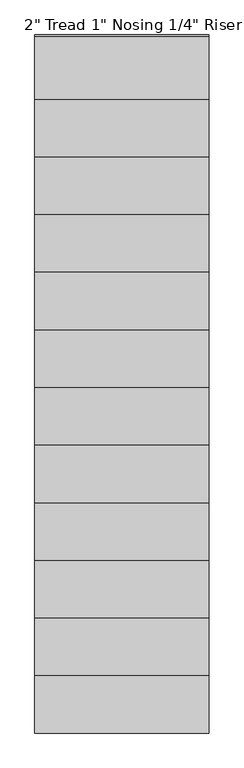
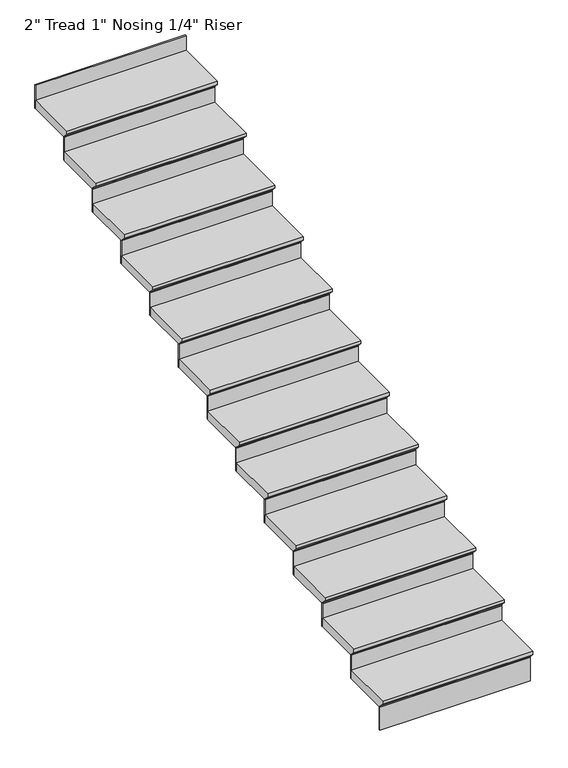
"""IFC4 building model written with IfcOpenShell, lengths in millimetres: stair flight geometry."""

from ifc_helpers import new_model, si_unit, frame, origin, place, context, project, spatial, polyline, outline, extrude, source, transform, mapped, element, save


def stair_flight_b4abb4c3(model_context):
    return source(origin(), model_context, "Body", "SweptSolid", [
        extrude(outline(polyline([(-5335.6545706, 1385.4545455), (-5030.8545706, 1385.4545455), (-5030.8545706, 1334.6545455), (-5310.2545706, 1334.6545455), (-5310.2545706, 1341.0045455), (-5335.6545706, 1366.4045455), (-5335.6545706, 1385.4545455)])), frame((-1871.5459224, 0.0, 0.0), z_axis=(1.0, 0.0, 0.0), x_axis=(0.0, 1.0, 0.0)), (0.0, 0.0, 1.0), 845.7549417),
        extrude(outline(polyline([(-1025.7909807, -5303.9045706), (-1025.7909807, -5310.2545706), (-1871.5459224, -5310.2545706), (-1871.5459224, -5303.9045706), (-1025.7909807, -5303.9045706)])), frame((0.0, 0.0, 1196.1090909), z_axis=(0.0, 0.0, 1.0), x_axis=(1.0, 0.0, 0.0)), (0.0, 0.0, 1.0), 138.5454545),
        extrude(outline(polyline([(-1025.7909807, -5024.5045706), (-1025.7909807, -5030.8545706), (-1871.5459224, -5030.8545706), (-1871.5459224, -5024.5045706), (-1025.7909807, -5024.5045706)])), frame((0.0, 0.0, 1334.6545455), z_axis=(0.0, 0.0, 1.0), x_axis=(1.0, 0.0, 0.0)), (0.0, 0.0, 1.0), 138.5454545),
        extrude(outline(polyline([(-5056.2545706, 1524.0), (-4751.4545706, 1524.0), (-4751.4545706, 1473.2), (-5030.8545706, 1473.2), (-5030.8545706, 1479.55), (-5056.2545706, 1504.95), (-5056.2545706, 1524.0)])), frame((-1871.5459224, 0.0, 0.0), z_axis=(1.0, 0.0, 0.0), x_axis=(0.0, 1.0, 0.0)), (0.0, 0.0, 1.0), 845.7549417),
        extrude(outline(polyline([(-1025.7909807, -4745.1045706), (-1025.7909807, -4751.4545706), (-1871.5459224, -4751.4545706), (-1871.5459224, -4745.1045706), (-1025.7909807, -4745.1045706)])), frame((0.0, 0.0, 1473.2), z_axis=(0.0, 0.0, 1.0), x_axis=(1.0, 0.0, 0.0)), (0.0, 0.0, 1.0), 138.5454545),
        extrude(outline(polyline([(-4776.8545706, 1662.5454545), (-4472.0545706, 1662.5454545), (-4472.0545706, 1611.7454545), (-4751.4545706, 1611.7454545), (-4751.4545706, 1618.0954545), (-4776.8545706, 1643.4954545), (-4776.8545706, 1662.5454545)])), frame((-1871.5459224, 0.0, 0.0), z_axis=(1.0, 0.0, 0.0), x_axis=(0.0, 1.0, 0.0)), (0.0, 0.0, 1.0), 845.7549417),
        extrude(outline(polyline([(-1025.7909807, -4465.7045706), (-1025.7909807, -4472.0545706), (-1871.5459224, -4472.0545706), (-1871.5459224, -4465.7045706), (-1025.7909807, -4465.7045706)])), frame((0.0, 0.0, 1611.7454545), z_axis=(0.0, 0.0, 1.0), x_axis=(1.0, 0.0, 0.0)), (0.0, 0.0, 1.0), 138.5454545),
        extrude(outline(polyline([(-4497.4545706, 1801.0909091), (-4192.6545706, 1801.0909091), (-4192.6545706, 1750.2909091), (-4472.0545706, 1750.2909091), (-4472.0545706, 1756.6409091), (-4497.4545706, 1782.0409091), (-4497.4545706, 1801.0909091)])), frame((-1871.5459224, 0.0, 0.0), z_axis=(1.0, 0.0, 0.0), x_axis=(0.0, 1.0, 0.0)), (0.0, 0.0, 1.0), 845.7549417),
        extrude(outline(polyline([(-1025.7909807, -4186.3045706), (-1025.7909807, -4192.6545706), (-1871.5459224, -4192.6545706), (-1871.5459224, -4186.3045706), (-1025.7909807, -4186.3045706)])), frame((0.0, 0.0, 1750.2909091), z_axis=(0.0, 0.0, 1.0), x_axis=(1.0, 0.0, 0.0)), (0.0, 0.0, 1.0), 138.5454545),
        extrude(outline(polyline([(-4218.0545706, 1939.6363636), (-3913.2545706, 1939.6363636), (-3913.2545706, 1888.8363636), (-4192.6545706, 1888.8363636), (-4192.6545706, 1895.1863636), (-4218.0545706, 1920.5863636), (-4218.0545706, 1939.6363636)])), frame((-1871.5459224, 0.0, 0.0), z_axis=(1.0, 0.0, 0.0), x_axis=(0.0, 1.0, 0.0)), (0.0, 0.0, 1.0), 845.7549417),
        extrude(outline(polyline([(-1025.7909807, -3906.9045706), (-1025.7909807, -3913.2545706), (-1871.5459224, -3913.2545706), (-1871.5459224, -3906.9045706), (-1025.7909807, -3906.9045706)])), frame((0.0, 0.0, 1888.8363636), z_axis=(0.0, 0.0, 1.0), x_axis=(1.0, 0.0, 0.0)), (0.0, 0.0, 1.0), 138.5454545),
        extrude(outline(polyline([(-3938.6545706, 2078.1818182), (-3633.8545706, 2078.1818182), (-3633.8545706, 2027.3818182), (-3913.2545706, 2027.3818182), (-3913.2545706, 2033.7318182), (-3938.6545706, 2059.1318182), (-3938.6545706, 2078.1818182)])), frame((-1871.5459224, 0.0, 0.0), z_axis=(1.0, 0.0, 0.0), x_axis=(0.0, 1.0, 0.0)), (0.0, 0.0, 1.0), 845.7549417),
        extrude(outline(polyline([(-1025.7909807, -3627.5045706), (-1025.7909807, -3633.8545706), (-1871.5459224, -3633.8545706), (-1871.5459224, -3627.5045706), (-1025.7909807, -3627.5045706)])), frame((0.0, 0.0, 2027.3818182), z_axis=(0.0, 0.0, 1.0), x_axis=(1.0, 0.0, 0.0)), (0.0, 0.0, 1.0), 138.5454545),
        extrude(outline(polyline([(-3659.2545706, 2216.7272727), (-3354.4545706, 2216.7272727), (-3354.4545706, 2165.9272727), (-3633.8545706, 2165.9272727), (-3633.8545706, 2172.2772727), (-3659.2545706, 2197.6772727), (-3659.2545706, 2216.7272727)])), frame((-1871.5459224, 0.0, 0.0), z_axis=(1.0, 0.0, 0.0), x_axis=(0.0, 1.0, 0.0)), (0.0, 0.0, 1.0), 845.7549417),
        extrude(outline(polyline([(-1025.7909807, -3348.1045706), (-1025.7909807, -3354.4545706), (-1871.5459224, -3354.4545706), (-1871.5459224, -3348.1045706), (-1025.7909807, -3348.1045706)])), frame((0.0, 0.0, 2165.9272727), z_axis=(0.0, 0.0, 1.0), x_axis=(1.0, 0.0, 0.0)), (0.0, 0.0, 1.0), 138.5454545),
        extrude(outline(polyline([(-3379.8545706, 2355.2727273), (-3075.0545706, 2355.2727273), (-3075.0545706, 2304.4727273), (-3354.4545706, 2304.4727273), (-3354.4545706, 2310.8227273), (-3379.8545706, 2336.2227273), (-3379.8545706, 2355.2727273)])), frame((-1871.5459224, 0.0, 0.0), z_axis=(1.0, 0.0, 0.0), x_axis=(0.0, 1.0, 0.0)), (0.0, 0.0, 1.0), 845.7549417),
        extrude(outline(polyline([(-1025.7909807, -3068.7045706), (-1025.7909807, -3075.0545706), (-1871.5459224, -3075.0545706), (-1871.5459224, -3068.7045706), (-1025.7909807, -3068.7045706)])), frame((0.0, 0.0, 2304.4727273), z_axis=(0.0, 0.0, 1.0), x_axis=(1.0, 0.0, 0.0)), (0.0, 0.0, 1.0), 138.5454545),
        extrude(outline(polyline([(-3100.4545706, 2493.8181818), (-2795.6545706, 2493.8181818), (-2795.6545706, 2443.0181818), (-3075.0545706, 2443.0181818), (-3075.0545706, 2449.3681818), (-3100.4545706, 2474.7681818), (-3100.4545706, 2493.8181818)])), frame((-1871.5459224, 0.0, 0.0), z_axis=(1.0, 0.0, 0.0), x_axis=(0.0, 1.0, 0.0)), (0.0, 0.0, 1.0), 845.7549417),
        extrude(outline(polyline([(-1025.7909807, -2789.3045706), (-1025.7909807, -2795.6545706), (-1871.5459224, -2795.6545706), (-1871.5459224, -2789.3045706), (-1025.7909807, -2789.3045706)])), frame((0.0, 0.0, 2443.0181818), z_axis=(0.0, 0.0, 1.0), x_axis=(1.0, 0.0, 0.0)), (0.0, 0.0, 1.0), 138.5454545),
        extrude(outline(polyline([(-2821.0545706, 2632.3636364), (-2516.2545706, 2632.3636364), (-2516.2545706, 2581.5636364), (-2795.6545706, 2581.5636364), (-2795.6545706, 2587.9136364), (-2821.0545706, 2613.3136364), (-2821.0545706, 2632.3636364)])), frame((-1871.5459224, 0.0, 0.0), z_axis=(1.0, 0.0, 0.0), x_axis=(0.0, 1.0, 0.0)), (0.0, 0.0, 1.0), 845.7549417),
        extrude(outline(polyline([(-1025.7909807, -2509.9045706), (-1025.7909807, -2516.2545706), (-1871.5459224, -2516.2545706), (-1871.5459224, -2509.9045706), (-1025.7909807, -2509.9045706)])), frame((0.0, 0.0, 2581.5636364), z_axis=(0.0, 0.0, 1.0), x_axis=(1.0, 0.0, 0.0)), (0.0, 0.0, 1.0), 138.5454545),
        extrude(outline(polyline([(-2541.6545706, 2770.9090909), (-2236.8545706, 2770.9090909), (-2236.8545706, 2720.1090909), (-2516.2545706, 2720.1090909), (-2516.2545706, 2726.4590909), (-2541.6545706, 2751.8590909), (-2541.6545706, 2770.9090909)])), frame((-1871.5459224, 0.0, 0.0), z_axis=(1.0, 0.0, 0.0), x_axis=(0.0, 1.0, 0.0)), (0.0, 0.0, 1.0), 845.7549417),
        extrude(outline(polyline([(-1025.7909807, -2230.5045706), (-1025.7909807, -2236.8545706), (-1871.5459224, -2236.8545706), (-1871.5459224, -2230.5045706), (-1025.7909807, -2230.5045706)])), frame((0.0, 0.0, 2720.1090909), z_axis=(0.0, 0.0, 1.0), x_axis=(1.0, 0.0, 0.0)), (0.0, 0.0, 1.0), 138.5454545),
        extrude(outline(polyline([(-2262.2545706, 2909.4545455), (-1957.4545706, 2909.4545455), (-1957.4545706, 2858.6545455), (-2236.8545706, 2858.6545455), (-2236.8545706, 2865.0045455), (-2262.2545706, 2890.4045455), (-2262.2545706, 2909.4545455)])), frame((-1871.5459224, 0.0, 0.0), z_axis=(1.0, 0.0, 0.0), x_axis=(0.0, 1.0, 0.0)), (0.0, 0.0, 1.0), 845.7549417),
        extrude(outline(polyline([(-1025.7909807, -1951.1045706), (-1025.7909807, -1957.4545706), (-1871.5459224, -1957.4545706), (-1871.5459224, -1951.1045706), (-1025.7909807, -1951.1045706)])), frame((0.0, 0.0, 2858.6545455), z_axis=(0.0, 0.0, 1.0), x_axis=(1.0, 0.0, 0.0)), (0.0, 0.0, 1.0), 138.5454545),
    ])


if __name__ == "__main__":
    model = new_model("IFC4")
    model_context = context("Model", 3, world=origin())
    ifc_project = project(units=[si_unit("LENGTHUNIT", "METRE", prefix="MILLI")], contexts=[model_context])
    site = spatial("IfcSite", under=ifc_project)
    building = spatial("IfcBuilding", under=site)
    placement = place(None, origin())
    stair_flight_shape = stair_flight_b4abb4c3(model_context)
    element("IfcStairFlight", 1, ObjectType="2\" Tread 1\" Nosing 1/4\" Riser", at=placement, inside=building, context=model_context, shape_type="MappedRepresentation", body=[
        mapped(stair_flight_shape, transform((0.0, 0.0, 0.0), x_axis=(1.0, 0.0, 0.0), y_axis=(0.0, 1.0, 0.0), z_axis=(0.0, 0.0, 1.0))),
    ])
    save(model, "model.ifc")
